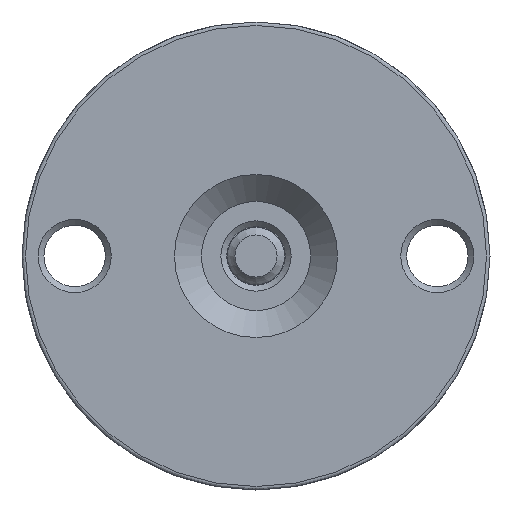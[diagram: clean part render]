
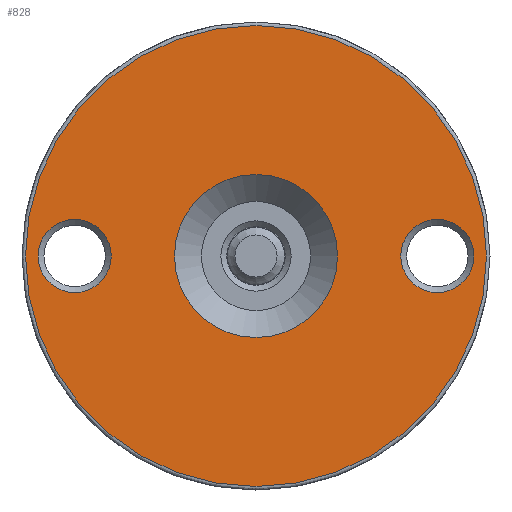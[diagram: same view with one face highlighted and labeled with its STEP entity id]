
A CAD part, left-side view. The second image highlights one B-rep face of the part: STEP entity #828.
In plain terms, the highlighted planar face has unit normal (-1, 0, 0).
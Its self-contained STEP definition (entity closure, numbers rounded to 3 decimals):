
#30=CARTESIAN_POINT('',(-420.561,-488.109,-37.069));
#31=VERTEX_POINT('',#30);
#38=CARTESIAN_POINT('',(-420.561,-488.109,-9.198));
#39=VERTEX_POINT('',#38);
#40=CARTESIAN_POINT('',(-420.561,-488.109,-23.134));
#41=DIRECTION('',(-1.0,0.0,0.));
#42=DIRECTION('',(0.,0.0,-1.0));
#43=AXIS2_PLACEMENT_3D('',#40,#41,#42);
#44=CIRCLE('',#43,13.935);
#45=EDGE_CURVE('',#31,#39,#44,.T.);
#47=CARTESIAN_POINT('',(-420.561,-488.109,-23.134));
#48=DIRECTION('',(-1.0,0.0,0.));
#49=DIRECTION('',(0.,0.0,-1.0));
#50=AXIS2_PLACEMENT_3D('',#47,#48,#49);
#51=CIRCLE('',#50,13.935);
#52=EDGE_CURVE('',#39,#31,#51,.T.);
#109=CARTESIAN_POINT('',(-420.561,-488.109,-62.534));
#110=VERTEX_POINT('',#109);
#137=CARTESIAN_POINT('',(-420.561,-488.109,16.266));
#138=VERTEX_POINT('',#137);
#139=CARTESIAN_POINT('',(-420.561,-488.109,-23.134));
#140=DIRECTION('',(-1.0,0.0,0.));
#141=DIRECTION('',(0.,0.0,-1.0));
#142=AXIS2_PLACEMENT_3D('',#139,#140,#141);
#143=CIRCLE('',#142,39.4);
#144=EDGE_CURVE('',#138,#110,#143,.T.);
#146=CARTESIAN_POINT('',(-420.561,-488.109,-23.134));
#147=DIRECTION('',(-1.0,0.0,0.));
#148=DIRECTION('',(0.,0.0,-1.0));
#149=AXIS2_PLACEMENT_3D('',#146,#147,#148);
#150=CIRCLE('',#149,39.4);
#151=EDGE_CURVE('',#110,#138,#150,.T.);
#775=CARTESIAN_POINT('',(-420.561,-409.309,55.666));
#776=DIRECTION('',(1.0,0.0,0.0));
#777=DIRECTION('',(0.0,-1.0,0.0));
#778=AXIS2_PLACEMENT_3D('',#775,#776,#777);
#779=PLANE('',#778);
#780=ORIENTED_EDGE('',*,*,#151,.T.);
#781=ORIENTED_EDGE('',*,*,#144,.T.);
#782=EDGE_LOOP('',(#780,#781));
#783=FACE_OUTER_BOUND('',#782,.T.);
#784=ORIENTED_EDGE('',*,*,#52,.F.);
#785=ORIENTED_EDGE('',*,*,#45,.F.);
#786=EDGE_LOOP('',(#784,#785));
#787=FACE_BOUND('',#786,.T.);
#788=CARTESIAN_POINT('',(-420.561,-450.859,-23.134));
#789=VERTEX_POINT('',#788);
#790=CARTESIAN_POINT('',(-420.561,-463.359,-23.134));
#791=VERTEX_POINT('',#790);
#792=CARTESIAN_POINT('',(-420.561,-457.109,-23.134));
#793=DIRECTION('',(-1.0,0.0,0.));
#794=DIRECTION('',(0.0,-1.0,0.0));
#795=AXIS2_PLACEMENT_3D('',#792,#793,#794);
#796=CIRCLE('',#795,6.25);
#797=EDGE_CURVE('',#789,#791,#796,.T.);
#798=ORIENTED_EDGE('',*,*,#797,.F.);
#799=CARTESIAN_POINT('',(-420.561,-457.109,-23.134));
#800=DIRECTION('',(-1.0,0.0,0.));
#801=DIRECTION('',(0.0,-1.0,0.0));
#802=AXIS2_PLACEMENT_3D('',#799,#800,#801);
#803=CIRCLE('',#802,6.25);
#804=EDGE_CURVE('',#791,#789,#803,.T.);
#805=ORIENTED_EDGE('',*,*,#804,.F.);
#806=EDGE_LOOP('',(#798,#805));
#807=FACE_BOUND('',#806,.T.);
#808=CARTESIAN_POINT('',(-420.561,-512.859,-23.134));
#809=VERTEX_POINT('',#808);
#810=CARTESIAN_POINT('',(-420.561,-525.359,-23.134));
#811=VERTEX_POINT('',#810);
#812=CARTESIAN_POINT('',(-420.561,-519.109,-23.134));
#813=DIRECTION('',(-1.0,0.0,0.));
#814=DIRECTION('',(0.0,-1.0,0.0));
#815=AXIS2_PLACEMENT_3D('',#812,#813,#814);
#816=CIRCLE('',#815,6.25);
#817=EDGE_CURVE('',#809,#811,#816,.T.);
#818=ORIENTED_EDGE('',*,*,#817,.F.);
#819=CARTESIAN_POINT('',(-420.561,-519.109,-23.134));
#820=DIRECTION('',(-1.0,0.0,0.));
#821=DIRECTION('',(0.0,-1.0,0.0));
#822=AXIS2_PLACEMENT_3D('',#819,#820,#821);
#823=CIRCLE('',#822,6.25);
#824=EDGE_CURVE('',#811,#809,#823,.T.);
#825=ORIENTED_EDGE('',*,*,#824,.F.);
#826=EDGE_LOOP('',(#818,#825));
#827=FACE_BOUND('',#826,.T.);
#828=ADVANCED_FACE('',(#783,#787,#807,#827),#779,.F.);
